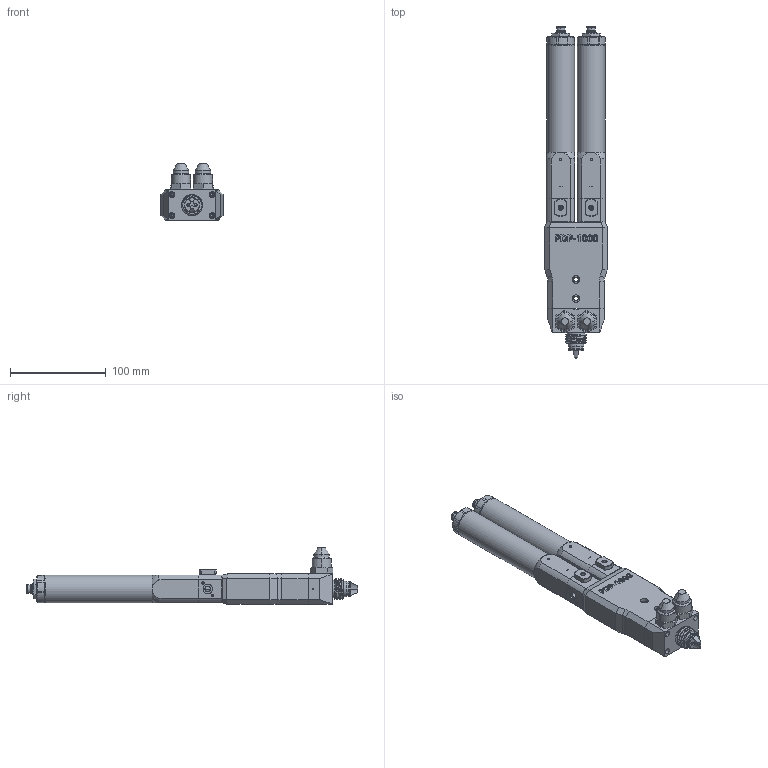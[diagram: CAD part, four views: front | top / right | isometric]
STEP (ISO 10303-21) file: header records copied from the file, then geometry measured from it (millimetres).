
FILE_DESCRIPTION (( 'STEP AP214' ), '1' );
FILE_NAME ('PDPM-1000CA.STEP', '2024-10-11T12:22:50', ( '' ), ( '' ), 'SwSTEP 2.0', 'SolidWorks 2024', '' );
FILE_SCHEMA (( 'AUTOMOTIVE_DESIGN' ));
Length unit declared in the file: millimetre
Products named in the file (1): PDPM-1000CA
Bounding box: 65 x 347 x 59.3 mm (x, y, z)
Volume: 506427.8 mm3; surface area: 122134.9 mm2
Topology: 12 solids, 12 shells, 1352 faces, 3359 edges, 2129 vertices
Faces by surface type: plane 515, cylinder 475, cone 273, bspline 69, torus 12, sphere 8
Full cylindrical faces by diameter (mm): 29 x2
Entity records: 58664 total; most frequent: CARTESIAN_POINT 27131, ORIENTED_EDGE 6642, DIRECTION 6399, EDGE_CURVE 3321, AXIS2_PLACEMENT_3D 2441, VERTEX_POINT 2129, EDGE_LOOP 1528, VECTOR 1517
